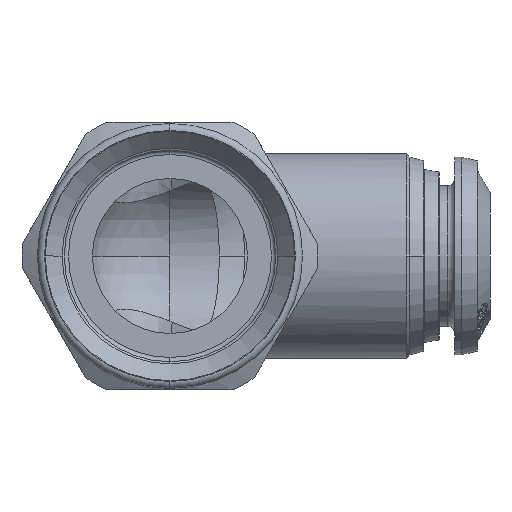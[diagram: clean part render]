
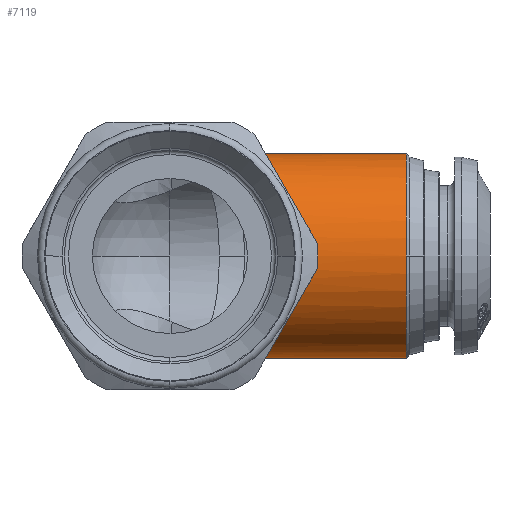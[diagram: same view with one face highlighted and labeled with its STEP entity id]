
A CAD part, front view. The second image highlights one B-rep face of the part: STEP entity #7119.
In plain terms, the highlighted cylindrical face has radius 7.25 mm (diameter 14.5 mm), a partial arc.
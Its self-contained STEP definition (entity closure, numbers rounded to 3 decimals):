
#148 = FACE_OUTER_BOUND ( 'NONE', #15291, .T. ) ;
#259 = DIRECTION ( 'NONE',  ( -1., 0., 0. ) ) ;
#424 = VERTEX_POINT ( 'NONE', #6221 ) ;
#707 = CIRCLE ( 'NONE', #7556, 7.25 ) ;
#717 = CARTESIAN_POINT ( 'NONE',  ( 1.935, 63.237, 6.987 ) ) ;
#795 = DIRECTION ( 'NONE',  ( 0., -1., 0. ) ) ;
#833 = CARTESIAN_POINT ( 'NONE',  ( 1.935, 63.237, -6.987 ) ) ;
#1035 = CARTESIAN_POINT ( 'NONE',  ( 7.25, 57.922, -3.387 ) ) ;
#1198 = ORIENTED_EDGE ( 'NONE', *, *, #5103, .T. ) ;
#1391 =( BOUNDED_CURVE ( )  B_SPLINE_CURVE ( 3, ( #9252, #1846, #10499, #3104 ),
 .UNSPECIFIED., .F., .F. ) 
 B_SPLINE_CURVE_WITH_KNOTS ( ( 4, 4 ),
 ( 1.301, 1.571 ),
 .UNSPECIFIED. ) 
 CURVE ( )  GEOMETRIC_REPRESENTATION_ITEM ( )  RATIONAL_B_SPLINE_CURVE ( ( 1., 0.994, 0.994, 1. ) ) 
 REPRESENTATION_ITEM ( '' )  );
#1846 = CARTESIAN_POINT ( 'NONE',  ( 2.164, 63.868, -7.162 ) ) ;
#2333 = DIRECTION ( 'NONE',  ( -1., 0., 0. ) ) ;
#2395 = ORIENTED_EDGE ( 'NONE', *, *, #3376, .T. ) ;
#2954 = DIRECTION ( 'NONE',  ( -1., 0., 0. ) ) ;
#3104 = CARTESIAN_POINT ( 'NONE',  ( 2.639, 65.172, -7.25 ) ) ;
#3222 =( BOUNDED_CURVE ( )  B_SPLINE_CURVE ( 3, ( #11037, #10119, #12859, #5699 ),
 .UNSPECIFIED., .F., .T. ) 
 B_SPLINE_CURVE_WITH_KNOTS ( ( 4, 4 ),
 ( 1.841, 3.142 ),
 .UNSPECIFIED. ) 
 CURVE ( )  GEOMETRIC_REPRESENTATION_ITEM ( )  RATIONAL_B_SPLINE_CURVE ( ( 1., 0.864, 0.864, 1. ) ) 
 REPRESENTATION_ITEM ( '' )  );
#3376 = EDGE_CURVE ( 'NONE', #7632, #8653, #707, .T. ) ;
#3574 = CIRCLE ( 'NONE', #11144, 7.25 ) ;
#3820 = DIRECTION ( 'NONE',  ( 0., 0., 1. ) ) ;
#4155 = CARTESIAN_POINT ( 'NONE',  ( 7.25, 57.922, 0. ) ) ;
#4233 = CARTESIAN_POINT ( 'NONE',  ( 16.768, 65.172, -7.25 ) ) ;
#4253 = VECTOR ( 'NONE', #15000, 1000. ) ;
#5103 = EDGE_CURVE ( 'NONE', #13155, #9140, #3222, .T. ) ;
#5239 = VERTEX_POINT ( 'NONE', #833 ) ;
#5245 = CARTESIAN_POINT ( 'NONE',  ( 2.639, 65.172, -7.25 ) ) ;
#5699 = CARTESIAN_POINT ( 'NONE',  ( 7.25, 57.922, 0. ) ) ;
#6160 = LINE ( 'NONE', #10329, #9017 ) ;
#6173 = EDGE_CURVE ( 'NONE', #10668, #13155, #9043, .T. ) ;
#6221 = CARTESIAN_POINT ( 'NONE',  ( 16.768, 65.172, 7.25 ) ) ;
#6247 = ORIENTED_EDGE ( 'NONE', *, *, #6173, .T. ) ;
#6273 = CARTESIAN_POINT ( 'NONE',  ( 0., 65.172, 0. ) ) ;
#6836 = CARTESIAN_POINT ( 'NONE',  ( 2.4, 64.517, 7.25 ) ) ;
#7119 = ADVANCED_FACE ( 'NONE', ( #148 ), #11742, .T. ) ;
#7284 = EDGE_CURVE ( 'NONE', #424, #10668, #6160, .T. ) ;
#7500 = DIRECTION ( 'NONE',  ( -1., 0., 0. ) ) ;
#7549 = LINE ( 'NONE', #13738, #4253 ) ;
#7556 = AXIS2_PLACEMENT_3D ( 'NONE', #15656, #259, #795 ) ;
#7632 = VERTEX_POINT ( 'NONE', #4233 ) ;
#8122 = CARTESIAN_POINT ( 'NONE',  ( 2.164, 63.868, 7.162 ) ) ;
#8501 = CARTESIAN_POINT ( 'NONE',  ( 1.935, 63.237, -6.987 ) ) ;
#8533 = ORIENTED_EDGE ( 'NONE', *, *, #8582, .T. ) ;
#8582 = EDGE_CURVE ( 'NONE', #5239, #15729, #1391, .T. ) ;
#8653 = VERTEX_POINT ( 'NONE', #13236 ) ;
#8815 = EDGE_CURVE ( 'NONE', #9140, #5239, #10941, .T. ) ;
#9017 = VECTOR ( 'NONE', #2954, 1000. ) ;
#9043 =( BOUNDED_CURVE ( )  B_SPLINE_CURVE ( 3, ( #9304, #6836, #8122, #717 ),
 .UNSPECIFIED., .F., .T. ) 
 B_SPLINE_CURVE_WITH_KNOTS ( ( 4, 4 ),
 ( 4.712, 4.983 ),
 .UNSPECIFIED. ) 
 CURVE ( )  GEOMETRIC_REPRESENTATION_ITEM ( )  RATIONAL_B_SPLINE_CURVE ( ( 1., 0.994, 0.994, 1. ) ) 
 REPRESENTATION_ITEM ( '' )  );
#9140 = VERTEX_POINT ( 'NONE', #4155 ) ;
#9252 = CARTESIAN_POINT ( 'NONE',  ( 1.935, 63.237, -6.987 ) ) ;
#9304 = CARTESIAN_POINT ( 'NONE',  ( 2.639, 65.172, 7.25 ) ) ;
#9576 = CARTESIAN_POINT ( 'NONE',  ( 2.639, 65.172, 7.25 ) ) ;
#9747 = CARTESIAN_POINT ( 'NONE',  ( 16.768, 65.172, 0. ) ) ;
#10119 = CARTESIAN_POINT ( 'NONE',  ( 5.199, 59.973, 6.083 ) ) ;
#10329 = CARTESIAN_POINT ( 'NONE',  ( 0., 65.172, 7.25 ) ) ;
#10499 = CARTESIAN_POINT ( 'NONE',  ( 2.4, 64.517, -7.25 ) ) ;
#10668 = VERTEX_POINT ( 'NONE', #9576 ) ;
#10941 =( BOUNDED_CURVE ( )  B_SPLINE_CURVE ( 3, ( #13392, #1035, #15920, #8501 ),
 .UNSPECIFIED., .F., .F. ) 
 B_SPLINE_CURVE_WITH_KNOTS ( ( 4, 4 ),
 ( 3.142, 4.442 ),
 .UNSPECIFIED. ) 
 CURVE ( )  GEOMETRIC_REPRESENTATION_ITEM ( )  RATIONAL_B_SPLINE_CURVE ( ( 1., 0.864, 0.864, 1. ) ) 
 REPRESENTATION_ITEM ( '' )  );
#10990 = DIRECTION ( 'NONE',  ( 0., -1., 0. ) ) ;
#11037 = CARTESIAN_POINT ( 'NONE',  ( 1.935, 63.237, 6.987 ) ) ;
#11092 = ORIENTED_EDGE ( 'NONE', *, *, #12014, .T. ) ;
#11144 = AXIS2_PLACEMENT_3D ( 'NONE', #9747, #2333, #10990 ) ;
#11593 = ORIENTED_EDGE ( 'NONE', *, *, #7284, .T. ) ;
#11742 = CYLINDRICAL_SURFACE ( 'NONE', #12723, 7.25 ) ;
#12014 = EDGE_CURVE ( 'NONE', #8653, #424, #3574, .T. ) ;
#12723 = AXIS2_PLACEMENT_3D ( 'NONE', #6273, #7500, #3820 ) ;
#12859 = CARTESIAN_POINT ( 'NONE',  ( 7.25, 57.922, 3.387 ) ) ;
#13155 = VERTEX_POINT ( 'NONE', #13192 ) ;
#13192 = CARTESIAN_POINT ( 'NONE',  ( 1.935, 63.237, 6.987 ) ) ;
#13236 = CARTESIAN_POINT ( 'NONE',  ( 16.768, 57.922, 0. ) ) ;
#13392 = CARTESIAN_POINT ( 'NONE',  ( 7.25, 57.922, 0. ) ) ;
#13738 = CARTESIAN_POINT ( 'NONE',  ( 0., 65.172, -7.25 ) ) ;
#13846 = EDGE_CURVE ( 'NONE', #7632, #15729, #7549, .T. ) ;
#14444 = ORIENTED_EDGE ( 'NONE', *, *, #8815, .T. ) ;
#14991 = ORIENTED_EDGE ( 'NONE', *, *, #13846, .F. ) ;
#15000 = DIRECTION ( 'NONE',  ( -1., 0., 0. ) ) ;
#15291 = EDGE_LOOP ( 'NONE', ( #14991, #2395, #11092, #11593, #6247, #1198, #14444, #8533 ) ) ;
#15656 = CARTESIAN_POINT ( 'NONE',  ( 16.768, 65.172, 0. ) ) ;
#15729 = VERTEX_POINT ( 'NONE', #5245 ) ;
#15920 = CARTESIAN_POINT ( 'NONE',  ( 5.199, 59.973, -6.083 ) ) ;
